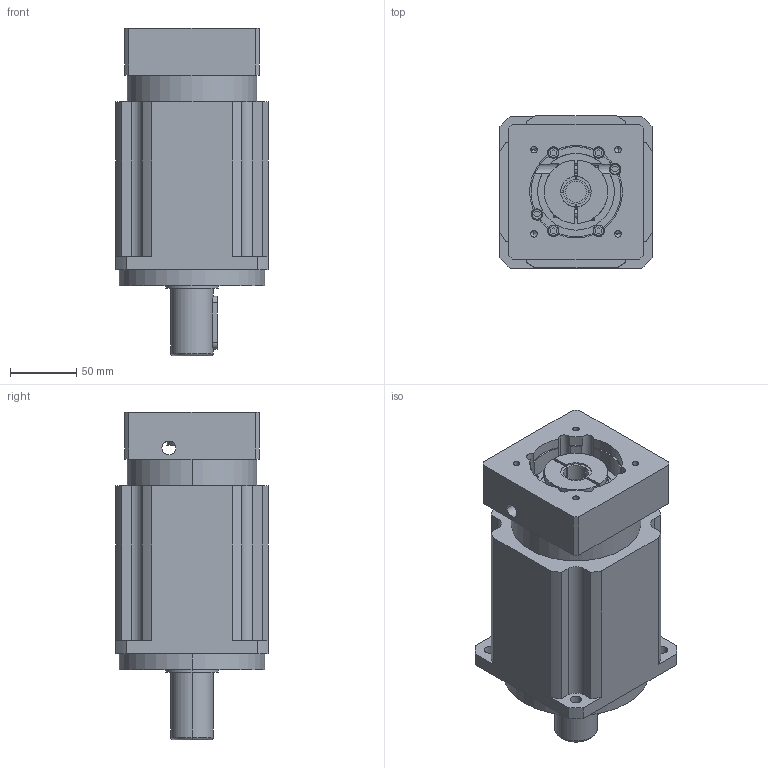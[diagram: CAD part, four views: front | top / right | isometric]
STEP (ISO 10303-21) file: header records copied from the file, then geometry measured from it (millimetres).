
FILE_DESCRIPTION (( 'STEP AP203' ), '1' );
FILE_NAME ('AB115-L2湮諉湮俋倛芞(19-47-70-90-M6).STEP', '2019-07-01T07:21:04', ( 'Windows' ), ( 'Microsoft' ), 'SwSTEP 2.0', 'SolidWorks 2016', '' );
FILE_SCHEMA (( 'CONFIG_CONTROL_DESIGN' ));
Length unit declared in the file: millimetre
Products named in the file (1): AB115-L2湮諉湮俋倛芞(19-47-70-90-M6)
Bounding box: 115 x 115 x 247.5 mm (x, y, z)
Volume: 2069362.3 mm3; surface area: 140694.7 mm2
Topology: 3 solids, 3 shells, 321 faces, 823 edges, 528 vertices
Faces by surface type: plane 148, cylinder 137, torus 22, cone 14
Entity records: 10277 total; most frequent: CARTESIAN_POINT 2141, DIRECTION 1776, ORIENTED_EDGE 1626, EDGE_CURVE 813, AXIS2_PLACEMENT_3D 669, VERTEX_POINT 528, VECTOR 438, LINE 438
